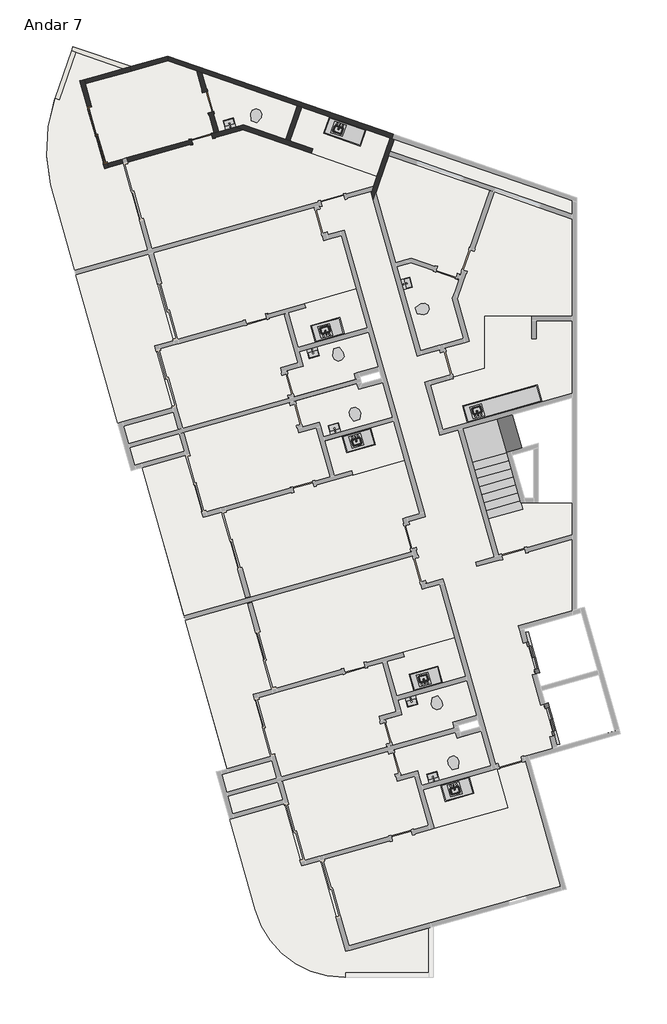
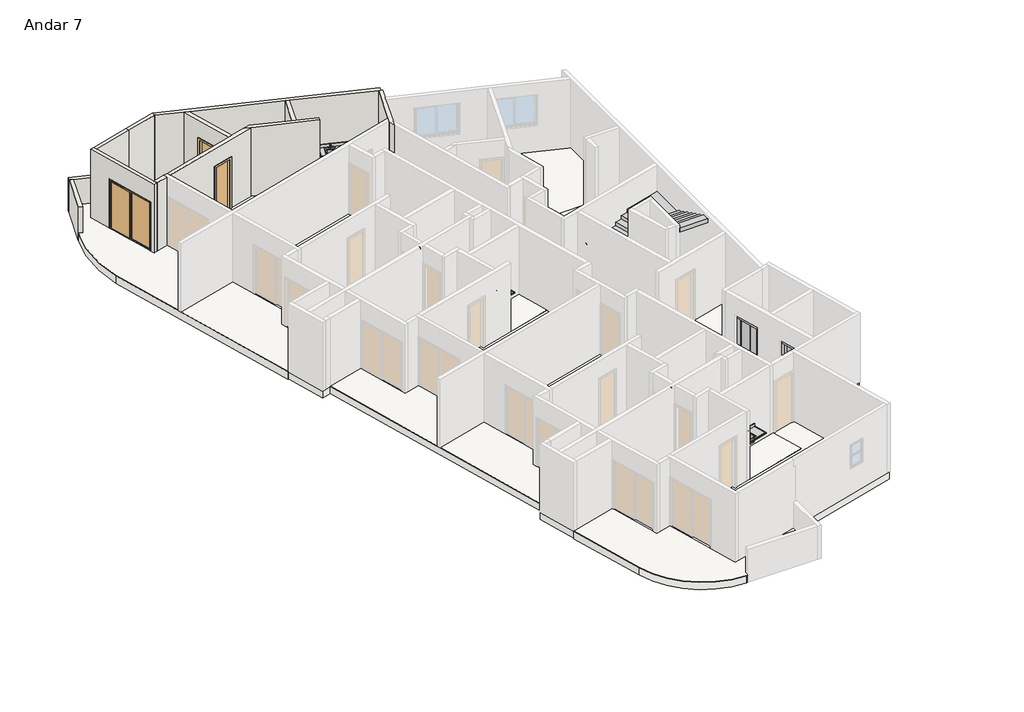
# One storey, part 3 of 3: 18 flow terminals, 18 slabs, 12 walls, 8 proxies, 3 doors, 1 stair flight.
"""IFC4 building model written with IfcOpenShell, lengths in millimetres."""

from ifc_helpers import new_model, si_unit, point, frame, frame_2d, origin, place, context, project, spatial, polyline, circle_curve, trimmed, segment, composite_curve, outline, extrude, faceted_brep, transform, mapped, element, save
from components import specialty_equipment_6c35da8b, specialty_equipment_77dfa124, rf_bancada_cozinha_rf_bancada_cozinha_340fef9f, rf_bancada_cozinha_rf_bancada_cozinha_cfb88ba1, rf_bancada_cozinha_rf_bancada_cozinha_2f873929, rf_bancada_cozinha_rf_bancada_cozinha_798ceddf, p3_70cm_ef4d15e3, p3_70cm_0a698c7c, p4_correr_200cm_eaaa0877, flow_terminal_cab7bae2, flow_terminal_3fb7dc42, flow_terminal_e42b9071, flow_terminal_c6e042c4, ap_01_creme_cr37_13e02e03, ap_01_creme_cr37_5ce6e54d

model = new_model("IFC4")

# Units and contexts
model_context = context("Model", 3, world=origin())
ifc_project = project(units=[si_unit("LENGTHUNIT", "METRE", prefix="MILLI")], contexts=[model_context])

# Site, building, storey
site = spatial("IfcSite", under=ifc_project)
building = spatial("IfcBuilding", under=site)
storey = spatial("IfcBuildingStorey", under=building, Name="Andar 7", Elevation=71050.0)

# Proxies
placement = place(None, origin())
specialty_equipment_shape = specialty_equipment_6c35da8b(model_context)
element("IfcBuildingElementProxy", 1, Name="Porta do elevador : Porta do elevador", ObjectType="Porta do elevador : Porta do elevador", at=placement, inside=storey, context=model_context, shape_type="MappedRepresentation", body=[
    mapped(specialty_equipment_shape, transform((-76594.4337486, 15747.4543727, 71050.0), x_axis=(0.27176796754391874, -0.9623628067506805, 0.0), y_axis=(0.9623628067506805, 0.27176796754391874, 0.0), z_axis=(0.0, 0.0, 1.0))),
])
specialty_equipment_2_shape = specialty_equipment_77dfa124(model_context)
element("IfcBuildingElementProxy", 2, Name="Porta do elevador : Porta do elevador", ObjectType="Porta do elevador : Porta do elevador", at=placement, inside=storey, context=model_context, shape_type="MappedRepresentation", body=[
    mapped(specialty_equipment_2_shape, transform((-75942.1906265, 13437.7836365, 71050.0), x_axis=(-0.27176796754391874, 0.9623628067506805, 0.0), y_axis=(-0.9623628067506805, -0.27176796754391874, 0.0), z_axis=(0.0, 0.0, 1.0))),
])
rf_bancada_cozinha_rf_bancada_cozinha_shape = rf_bancada_cozinha_rf_bancada_cozinha_340fef9f(model_context)
element("IfcBuildingElementProxy", 3, Name="RF_Bancada Cozinha : RF_Bancada Cozinha", ObjectType="RF_Bancada Cozinha : RF_Bancada Cozinha", at=placement, inside=storey, context=model_context, shape_type="MappedRepresentation", body=[
    mapped(rf_bancada_cozinha_rf_bancada_cozinha_shape, transform((-82760.548019, 26451.5820971, 71800.0), x_axis=(-0.9623628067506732, -0.27176796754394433, 0.0), y_axis=(0.27176796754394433, -0.9623628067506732, 0.0), z_axis=(0.0, 0.0, 1.0))),
])
element("IfcBuildingElementProxy", 4, Name="RF_Bancada Cozinha : RF_Bancada Cozinha", ObjectType="RF_Bancada Cozinha : RF_Bancada Cozinha", at=placement, inside=storey, context=model_context, shape_type="MappedRepresentation", body=[
    mapped(rf_bancada_cozinha_rf_bancada_cozinha_shape, transform((-79472.1556117, 14806.9921354, 71800.0), x_axis=(-0.962362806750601, -0.2717679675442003, 0.0), y_axis=(0.2717679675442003, -0.962362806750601, 0.0), z_axis=(0.0, 0.0, 1.0))),
])
rf_bancada_cozinha_rf_bancada_cozinha_2_shape = rf_bancada_cozinha_rf_bancada_cozinha_cfb88ba1(model_context)
element("IfcBuildingElementProxy", 5, Name="RF_Bancada Cozinha : RF_Bancada Cozinha", ObjectType="RF_Bancada Cozinha : RF_Bancada Cozinha", at=placement, inside=storey, context=model_context, shape_type="MappedRepresentation", body=[
    mapped(rf_bancada_cozinha_rf_bancada_cozinha_2_shape, transform((-81877.3021245, 23323.9029751, 71800.0), x_axis=(-0.9623628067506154, -0.27176796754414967, 0.0), y_axis=(0.27176796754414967, -0.9623628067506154, 0.0), z_axis=(0.0, 0.0, 1.0))),
])
element("IfcBuildingElementProxy", 6, Name="RF_Bancada Cozinha : RF_Bancada Cozinha", ObjectType="RF_Bancada Cozinha : RF_Bancada Cozinha", at=placement, inside=storey, context=model_context, shape_type="MappedRepresentation", body=[
    mapped(rf_bancada_cozinha_rf_bancada_cozinha_2_shape, transform((-78588.9097172, 11679.3130134, 71800.0), x_axis=(-0.9623628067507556, -0.27176796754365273, 0.0), y_axis=(0.27176796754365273, -0.9623628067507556, 0.0), z_axis=(0.0, 0.0, 1.0))),
])
rf_bancada_cozinha_rf_bancada_cozinha_3_shape = rf_bancada_cozinha_rf_bancada_cozinha_2f873929(model_context)
element("IfcBuildingElementProxy", 7, Name="RF_Bancada Cozinha : RF_Bancada Cozinha", ObjectType="RF_Bancada Cozinha : RF_Bancada Cozinha", at=placement, inside=storey, context=model_context, shape_type="MappedRepresentation", body=[
    mapped(rf_bancada_cozinha_rf_bancada_cozinha_3_shape, transform((-82030.0326121, 33293.9830661, 71800.0), x_axis=(-0.9449109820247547, 0.32732741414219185, 0.0), y_axis=(-0.32732741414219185, -0.9449109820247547, 0.0), z_axis=(0.0, 0.0, 1.0))),
])
rf_bancada_cozinha_rf_bancada_cozinha_4_shape = rf_bancada_cozinha_rf_bancada_cozinha_798ceddf(model_context)
element("IfcBuildingElementProxy", 8, Name="RF_Bancada Cozinha : RF_Bancada Cozinha", ObjectType="RF_Bancada Cozinha : RF_Bancada Cozinha", at=placement, inside=storey, context=model_context, shape_type="MappedRepresentation", body=[
    mapped(rf_bancada_cozinha_rf_bancada_cozinha_4_shape, transform((-76157.6622331, 24197.9763092, 71800.0), x_axis=(-0.9623628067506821, -0.27176796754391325, 0.0), y_axis=(0.27176796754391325, -0.9623628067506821, 0.0), z_axis=(0.0, 0.0, 1.0))),
])

# Doors
p3_70cm_shape = p3_70cm_ef4d15e3(model_context)
element("IfcDoor", 9, ObjectType="M_Folha única1 : P3 - 70CM", at=placement, inside=storey, context=model_context, shape_type="MappedRepresentation", body=[
    mapped(p3_70cm_shape, transform((-87513.806232, 32980.5300491, 71050.0), x_axis=(0.9623628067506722, 0.2717679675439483, 0.0), y_axis=(-0.2717679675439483, 0.9623628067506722, 0.0), z_axis=(0.0, 0.0, 1.0))),
])
p3_70cm_2_shape = p3_70cm_0a698c7c(model_context)
element("IfcDoor", 10, ObjectType="M_Folha única1 : P3 - 70CM", at=placement, inside=storey, context=model_context, shape_type="MappedRepresentation", body=[
    mapped(p3_70cm_2_shape, transform((-87314.304722, 34205.8663896, 71050.0), x_axis=(-0.2717679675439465, 0.9623628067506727, 0.0), y_axis=(-0.9623628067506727, -0.2717679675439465, 0.0), z_axis=(0.0, 0.0, 1.0))),
])
p4_correr_200cm_shape = p4_correr_200cm_eaaa0877(model_context)
element("IfcDoor", 11, ObjectType="Porta de correr dupla envidraçada sem revestimento : P4 - CORRER - 200CM", at=placement, inside=storey, context=model_context, shape_type="MappedRepresentation", body=[
    mapped(p4_correr_200cm_shape, transform((-91005.8131296, 33111.4415743, 71050.0), x_axis=(0.2717679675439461, -0.9623628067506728, 0.0), y_axis=(0.9623628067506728, 0.2717679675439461, 0.0), z_axis=(0.0, 0.0, 1.0))),
])

# Flow terminals
flow_terminal_shape = flow_terminal_cab7bae2(model_context)
element("IfcFlowTerminal", 12, ObjectType="RF_Pias : Pia da Bancada", at=placement, inside=storey, context=model_context, shape_type="MappedRepresentation", body=[
    mapped(flow_terminal_shape, transform((-83380.5102831, 26570.4992214, 70902.9), x_axis=(-0.9623628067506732, -0.27176796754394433, 0.0), y_axis=(0.27176796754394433, -0.9623628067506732, 0.0), z_axis=(0.0, 0.0, 1.0))),
])
element("IfcFlowTerminal", 13, ObjectType="RF_Pias : Pia da Bancada", at=placement, inside=storey, context=model_context, shape_type="MappedRepresentation", body=[
    mapped(flow_terminal_shape, transform((-80092.1178758, 14925.9092597, 70902.9), x_axis=(-0.962362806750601, -0.2717679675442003, 0.0), y_axis=(0.2717679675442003, -0.962362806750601, 0.0), z_axis=(0.0, 0.0, 1.0))),
])
element("IfcFlowTerminal", 14, ObjectType="RF_Pias : Pia da Bancada", at=placement, inside=storey, context=model_context, shape_type="MappedRepresentation", body=[
    mapped(flow_terminal_shape, transform((-78306.8185143, 23885.0542694, 70902.9), x_axis=(-0.9623628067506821, -0.27176796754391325, 0.0), y_axis=(0.27176796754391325, -0.9623628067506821, 0.0), z_axis=(0.0, 0.0, 1.0))),
])
flow_terminal_2_shape = flow_terminal_3fb7dc42(model_context)
element("IfcFlowTerminal", 15, ObjectType="Deca_Cuba de Apoio Retangular_L7300 : L.7300.17_Branco Gelo GE17", at=placement, inside=storey, context=model_context, shape_type="MappedRepresentation", body=[
    mapped(flow_terminal_2_shape, transform((-83090.0822283, 23308.7374016, 71800.0), x_axis=(-0.9623628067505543, -0.2717679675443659, 0.0), y_axis=(0.2717679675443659, -0.9623628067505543, 0.0), z_axis=(0.0, 0.0, 1.0))),
])
element("IfcFlowTerminal", 16, ObjectType="Deca_Cuba de Apoio Retangular_L7300 : L.7300.17_Branco Gelo GE17", at=placement, inside=storey, context=model_context, shape_type="MappedRepresentation", body=[
    mapped(flow_terminal_2_shape, transform((-79801.689821, 11664.1474399, 71800.0), x_axis=(-0.9623628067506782, -0.2717679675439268, 0.0), y_axis=(0.2717679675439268, -0.9623628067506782, 0.0), z_axis=(0.0, 0.0, 1.0))),
])
element("IfcFlowTerminal", 17, ObjectType="Deca_Cuba de Apoio Retangular_L7300 : L.7300.17_Branco Gelo GE17", at=placement, inside=storey, context=model_context, shape_type="MappedRepresentation", body=[
    mapped(flow_terminal_2_shape, transform((-80677.0991462, 28154.8020678, 71800.0), x_axis=(-0.2717679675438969, 0.9623628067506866, 0.0), y_axis=(-0.9623628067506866, -0.2717679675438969, 0.0), z_axis=(0.0, 0.0, 1.0))),
])
element("IfcFlowTerminal", 18, ObjectType="Deca_Cuba de Apoio Retangular_L7300 : L.7300.17_Branco Gelo GE17", at=placement, inside=storey, context=model_context, shape_type="MappedRepresentation", body=[
    mapped(flow_terminal_2_shape, transform((-86597.4204814, 33488.7004496, 71800.0), x_axis=(-0.9623628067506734, -0.27176796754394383, 0.0), y_axis=(0.27176796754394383, -0.9623628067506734, 0.0), z_axis=(0.0, 0.0, 1.0))),
])
flow_terminal_3_shape = flow_terminal_e42b9071(model_context)
element("IfcFlowTerminal", 19, ObjectType="Deca_Cuba de Apoio Retangular_L7300 : L.7300.17_Branco Gelo GE17", at=placement, inside=storey, context=model_context, shape_type="MappedRepresentation", body=[
    mapped(flow_terminal_3_shape, transform((-83802.1143033, 25830.1279553, 71800.0), x_axis=(-0.9623628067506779, -0.2717679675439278, 0.0), y_axis=(0.2717679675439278, -0.9623628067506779, 0.0), z_axis=(0.0, 0.0, 1.0))),
])
element("IfcFlowTerminal", 20, ObjectType="Deca_Cuba de Apoio Retangular_L7300 : L.7300.17_Branco Gelo GE17", at=placement, inside=storey, context=model_context, shape_type="MappedRepresentation", body=[
    mapped(flow_terminal_3_shape, transform((-80513.721896, 14185.5379936, 71800.0), x_axis=(-0.962362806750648, -0.27176796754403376, 0.0), y_axis=(0.27176796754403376, -0.962362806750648, 0.0), z_axis=(0.0, 0.0, 1.0))),
])
flow_terminal_4_shape = flow_terminal_c6e042c4(model_context)
element("IfcFlowTerminal", 21, ObjectType="RF_Pias : Pia da Bancada", at=placement, inside=storey, context=model_context, shape_type="MappedRepresentation", body=[
    mapped(flow_terminal_4_shape, transform((-82343.483233, 22898.2626745, 70902.9), x_axis=(-0.9623628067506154, -0.27176796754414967, 0.0), y_axis=(0.27176796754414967, -0.9623628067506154, 0.0), z_axis=(0.0, 0.0, 1.0))),
])
element("IfcFlowTerminal", 22, ObjectType="RF_Pias : Pia da Bancada", at=placement, inside=storey, context=model_context, shape_type="MappedRepresentation", body=[
    mapped(flow_terminal_4_shape, transform((-79055.0908257, 11253.6727129, 70902.9), x_axis=(-0.9623628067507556, -0.27176796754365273, 0.0), y_axis=(0.27176796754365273, -0.9623628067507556, 0.0), z_axis=(0.0, 0.0, 1.0))),
])
element("IfcFlowTerminal", 23, ObjectType="RF_Pias : Pia da Bancada", at=placement, inside=storey, context=model_context, shape_type="MappedRepresentation", body=[
    mapped(flow_terminal_4_shape, transform((-82939.3392028, 33309.5545572, 70902.9), x_axis=(-0.9449109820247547, 0.32732741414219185, 0.0), y_axis=(-0.32732741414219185, -0.9449109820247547, 0.0), z_axis=(0.0, 0.0, 1.0))),
])
ap_01_creme_cr37_shape = ap_01_creme_cr37_13e02e03(model_context)
element("IfcFlowTerminal", 24, ObjectType="Deca_Shared_Assento_P.900 : AP.01_Creme CR37", at=placement, inside=storey, context=model_context, shape_type="MappedRepresentation", body=[
    mapped(ap_01_creme_cr37_shape, transform((-83017.5301151, 25983.4740486, 71437.8723674), x_axis=(0.9623628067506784, 0.2717679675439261, 0.0), y_axis=(0.0, 0.0, 1.0), z_axis=(0.2717679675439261, -0.9623628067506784, 0.0))),
])
element("IfcFlowTerminal", 25, ObjectType="Deca_Shared_Assento_P.900 : AP.01_Creme CR37", at=placement, inside=storey, context=model_context, shape_type="MappedRepresentation", body=[
    mapped(ap_01_creme_cr37_shape, transform((-79729.1377078, 14338.8840869, 71437.8723674), x_axis=(0.962362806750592, 0.2717679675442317, 0.0), y_axis=(0.0, 0.0, 1.0), z_axis=(0.2717679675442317, -0.962362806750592, 0.0))),
])
element("IfcFlowTerminal", 26, ObjectType="Deca_Shared_Assento_P.900 : AP.01_Creme CR37", at=placement, inside=storey, context=model_context, shape_type="MappedRepresentation", body=[
    mapped(ap_01_creme_cr37_shape, transform((-80349.5164684, 27236.3600819, 71437.8723674), x_axis=(-0.271767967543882, 0.9623628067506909, 0.0), y_axis=(0.0, 0.0, 1.0), z_axis=(0.9623628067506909, 0.271767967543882, 0.0))),
])
element("IfcFlowTerminal", 27, ObjectType="Deca_Shared_Assento_P.900 : AP.01_Creme CR37", at=placement, inside=storey, context=model_context, shape_type="MappedRepresentation", body=[
    mapped(ap_01_creme_cr37_shape, transform((-85777.8760768, 33566.4131555, 71437.8723674), x_axis=(-0.9449109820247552, 0.3273274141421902, 0.0), y_axis=(0.0, 0.0, 1.0000000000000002), z_axis=(0.3273274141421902, 0.9449109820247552, 0.0))),
])
ap_01_creme_cr37_2_shape = ap_01_creme_cr37_5ce6e54d(model_context)
element("IfcFlowTerminal", 28, ObjectType="Deca_Shared_Assento_P.900 : AP.01_Creme CR37", at=placement, inside=storey, context=model_context, shape_type="MappedRepresentation", body=[
    mapped(ap_01_creme_cr37_2_shape, transform((-82341.1813229, 23588.4422577, 71437.8723674), x_axis=(0.9623628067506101, 0.27176796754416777, 0.0), y_axis=(0.0, 0.0, -1.0), z_axis=(-0.27176796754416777, 0.9623628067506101, 0.0))),
])
element("IfcFlowTerminal", 29, ObjectType="Deca_Shared_Assento_P.900 : AP.01_Creme CR37", at=placement, inside=storey, context=model_context, shape_type="MappedRepresentation", body=[
    mapped(ap_01_creme_cr37_2_shape, transform((-79052.7889156, 11943.852296, 71437.8723674), x_axis=(0.9623628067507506, 0.2717679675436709, 0.0), y_axis=(0.0, 0.0, -1.0000000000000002), z_axis=(-0.2717679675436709, 0.9623628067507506, 0.0))),
])

# Slabs
element("IfcSlab", 30, ObjectType="TZ_Piso de Áreas Molhadas", at=placement, inside=storey, context=model_context, shape_type="SweptSolid", body=[
    extrude(outline(composite_curve([segment(polyline([(-90765.4571774, 31984.341749), (-90143.7425806, 32159.9118263), (-89328.438678, 29272.823406), (-91766.0080564, 28584.4621444), (-92573.2320087, 31442.9384962)]), True, "CONTINUOUS"), segment(trimmed(circle_curve(frame_2d((-87414.5556743, 32622.5665107)), 5291.829908), [point((-92573.2320087, 31442.9384962))], [point((-92422.0860726, 34333.7366032))], False, "CARTESIAN"), True, "CONTINUOUS"), segment(polyline([(-92422.0860726, 34333.7366032), (-92280.2794148, 34284.6132387), (-91729.7010481, 35873.9929322), (-90151.0501028, 35327.1311202), (-91594.3494784, 34919.5483093), (-90765.4571774, 31984.341749)]), True, "CONTINUOUS")], self_intersect=False)), frame((0.0, 0.0, 71050.0), z_axis=(0.0, 0.0, 1.0), x_axis=(1.0, 0.0, 0.0)), (0.0, 0.0, 1.0), 20.0),
])
element("IfcSlab", 31, ObjectType="TZ_Piso de Áreas Molhadas", at=placement, inside=storey, context=model_context, shape_type="SweptSolid", body=[
    extrude(outline(polyline([(-88472.3695802, 26241.3805647), (-89094.084177, 26065.8104874), (-88509.7830468, 23996.7304529), (-90325.6378284, 23483.9392686), (-91725.2428613, 28440.1077234), (-89287.6734828, 29128.468985), (-88472.3695802, 26241.3805647)])), frame((0.0, 0.0, 71050.0), z_axis=(0.0, 0.0, 1.0), x_axis=(1.0, 0.0, 0.0)), (0.0, 0.0, 1.0), 20.0),
])
element("IfcSlab", 32, ObjectType="TZ_Piso de Áreas Molhadas", at=placement, inside=storey, context=model_context, shape_type="SweptSolid", body=[
    extrude(outline(polyline([(-86855.3501733, 20515.3218645), (-86040.0462707, 17628.2334443), (-88109.1263052, 17043.9323141), (-89508.731338, 22000.1007688), (-88061.3659003, 22408.8318218), (-87477.0647701, 20339.7517872), (-86855.3501733, 20515.3218645)])), frame((0.0, 0.0, 71050.0), z_axis=(0.0, 0.0, 1.0), x_axis=(1.0, 0.0, 0.0)), (0.0, 0.0, 1.0), 20.0),
])
element("IfcSlab", 33, ObjectType="TZ_Piso de Áreas Molhadas", at=placement, inside=storey, context=model_context, shape_type="SweptSolid", body=[
    extrude(outline(polyline([(-78926.5637691, 28284.9851582), (-79146.9727346, 27648.7205404), (-78771.1333302, 26317.8283554), (-80214.6775403, 25910.176404), (-81004.3851492, 28706.6252933), (-80530.2499593, 28840.5194505), (-78926.5637691, 28284.9851582)])), frame((0.0, 0.0, 71050.0), z_axis=(0.0, 0.0, 1.0), x_axis=(1.0, 0.0, 0.0)), (0.0, 0.0, 1.0), 20.0),
])
element("IfcSlab", 34, ObjectType="TZ_Piso de Áreas Molhadas", at=placement, inside=storey, context=model_context, shape_type="SweptSolid", body=[
    extrude(outline(polyline([(-78070.9150345, 27060.8243598), (-76493.6479314, 27060.8243598), (-76493.6479314, 26310.8243598), (-76343.6479314, 26310.8243598), (-76343.6479314, 26910.8243598), (-75147.8282189, 26910.8243598), (-75147.8282189, 24483.4871675), (-79467.3156296, 23263.6786855), (-79888.5559793, 24755.3410359), (-79127.7601479, 24970.1871785), (-79141.3485461, 25018.3053183), (-78070.9150345, 25320.5920836), (-78070.9150345, 27060.8243598)])), frame((0.0, 0.0, 71050.0), z_axis=(0.0, 0.0, 1.0), x_axis=(1.0, 0.0, 0.0)), (0.0, 0.0, 1.0), 20.0),
])
element("IfcSlab", 35, ObjectType="TZ_Piso de Áreas Molhadas", at=placement, inside=storey, context=model_context, shape_type="SweptSolid", body=[
    extrude(outline(polyline([(-84719.4810559, 32955.6762822), (-86137.8721095, 33447.0223292), (-86956.7711455, 33215.7680402), (-87515.4733556, 35194.1992432), (-84326.6881589, 34089.5694606), (-84719.4810559, 32955.6762822)])), frame((0.0, 0.0, 71050.0), z_axis=(0.0, 0.0, 1.0), x_axis=(1.0, 0.0, 0.0)), (0.0, 0.0, 1.0), 20.0),
])
element("IfcSlab", 36, ObjectType="TZ_Piso de Áreas Molhadas", at=placement, inside=storey, context=model_context, shape_type="SweptSolid", body=[
    extrude(outline(polyline([(-84577.7444086, 32906.57717), (-84184.9515116, 34040.4703485), (-81226.8582774, 33015.7547641), (-81668.7502865, 31740.1249383), (-83870.9147351, 32502.9785914), (-83821.815623, 32644.7152387), (-84577.7444086, 32906.57717)])), frame((0.0, 0.0, 71050.0), z_axis=(0.0, 0.0, 1.0), x_axis=(1.0, 0.0, 0.0)), (0.0, 0.0, 1.0), 20.0),
])
element("IfcSlab", 37, ObjectType="TZ_Piso de Áreas Molhadas", at=placement, inside=storey, context=model_context, shape_type="SweptSolid", body=[
    extrude(outline(polyline([(-81949.8925784, 26524.6420501), (-81623.7710174, 25369.806682), (-82432.1557751, 25141.5215893), (-82377.8021816, 24949.0490279), (-84456.5058441, 24362.030218), (-84701.0970149, 25228.1567441), (-84123.6793309, 25391.2175246), (-84259.5633146, 25872.398928), (-81949.8925784, 26524.6420501)])), frame((0.0, 0.0, 71050.0), z_axis=(0.0, 0.0, 1.0), x_axis=(1.0, 0.0, 0.0)), (0.0, 0.0, 1.0), 20.0),
])
element("IfcSlab", 38, ObjectType="TZ_Piso de Áreas Molhadas", at=placement, inside=storey, context=model_context, shape_type="SweptSolid", body=[
    extrude(outline(polyline([(-84089.7975819, 27479.0039186), (-82357.5445298, 27968.1862602), (-81990.6577736, 26668.9964711), (-84300.3285098, 26016.753349), (-84626.4500708, 27171.5887171), (-84049.0323868, 27334.6494976), (-84089.7975819, 27479.0039186)])), frame((0.0, 0.0, 71050.0), z_axis=(0.0, 0.0, 1.0), x_axis=(1.0, 0.0, 0.0)), (0.0, 0.0, 1.0), 20.0),
])
element("IfcSlab", 39, ObjectType="TZ_Piso de Áreas Molhadas", at=placement, inside=storey, context=model_context, shape_type="SweptSolid", body=[
    extrude(outline(polyline([(-84171.1494782, 23351.5492709), (-84415.740649, 24217.675797), (-82337.0369864, 24804.6946069), (-82282.6833929, 24612.2220455), (-81474.2986352, 24840.5071383), (-81148.1770742, 23685.6717702), (-83457.8478104, 23033.4286481), (-83593.7317942, 23514.6100514), (-84171.1494782, 23351.5492709)])), frame((0.0, 0.0, 71050.0), z_axis=(0.0, 0.0, 1.0), x_axis=(1.0, 0.0, 0.0)), (0.0, 0.0, 1.0), 20.0),
])
element("IfcSlab", 40, ObjectType="TZ_Piso de Áreas Molhadas", at=placement, inside=storey, context=model_context, shape_type="SweptSolid", body=[
    extrude(outline(composite_curve([segment(polyline([(-79945.4990038, 5119.4122055), (-82713.5540687, 5119.4122055), (-82713.5540687, 4969.4122055), (-82751.3896972, 4969.4122055)]), True, "CONTINUOUS"), segment(trimmed(circle_curve(frame_2d((-82751.3896972, 8069.4122055)), 3100.0), [point((-82751.3896972, 4969.4122055))], [point((-85734.7143981, 7226.9315061))], False, "CARTESIAN"), True, "CONTINUOUS"), segment(polyline([(-85734.7143981, 7226.9315061), (-86588.8282733, 10251.4506708), (-84772.9735093, 10764.2419177), (-84188.6722855, 8695.1618243), (-83566.957766, 8870.7319029), (-82710.8885369, 5839.2889958), (-79945.4990038, 6620.2256515), (-79945.4990038, 5119.4122055)]), True, "CONTINUOUS")], self_intersect=False)), frame((0.0, 0.0, 71050.0), z_axis=(0.0, 0.0, 1.0), x_axis=(1.0, 0.0, 0.0)), (0.0, 0.0, 1.0), 20.0),
])
element("IfcSlab", 41, ObjectType="TZ_Piso de Áreas Molhadas", at=placement, inside=storey, context=model_context, shape_type="SweptSolid", body=[
    extrude(outline(polyline([(-78185.906228, 13195.9171766), (-77859.7846669, 12041.0818085), (-80169.4554031, 11388.8386864), (-80305.3393869, 11870.0200898), (-80882.7570709, 11706.9593092), (-81127.3482417, 12573.0858353), (-79048.6445791, 13160.1046452), (-78994.2909856, 12967.6320839), (-78185.906228, 13195.9171766)])), frame((0.0, 0.0, 71050.0), z_axis=(0.0, 0.0, 1.0), x_axis=(1.0, 0.0, 0.0)), (0.0, 0.0, 1.0), 20.0),
])
element("IfcSlab", 42, ObjectType="TZ_Piso de Áreas Molhadas", at=placement, inside=storey, context=model_context, shape_type="SweptSolid", body=[
    extrude(outline(polyline([(-77307.7782946, 10638.3027935), (-79761.8034518, 9945.2944763), (-80128.690208, 11244.4842654), (-77674.6650508, 11937.4925826), (-77307.7782946, 10638.3027935)])), frame((0.0, 0.0, 71050.0), z_axis=(0.0, 0.0, 1.0), x_axis=(1.0, 0.0, 0.0)), (0.0, 0.0, 1.0), 20.0),
])
element("IfcSlab", 43, ObjectType="TZ_Piso de Áreas Molhadas", at=placement, inside=storey, context=model_context, shape_type="SweptSolid", body=[
    extrude(outline(polyline([(-81107.9410005, 23543.1910314), (-80740.5251229, 22242.1275601), (-82472.778175, 21752.9452185), (-82513.5433702, 21897.2996395), (-83090.9610542, 21734.238859), (-83418.0192411, 22888.8089065), (-81107.9410005, 23543.1910314)])), frame((0.0, 0.0, 71050.0), z_axis=(0.0, 0.0, 1.0), x_axis=(1.0, 0.0, 0.0)), (0.0, 0.0, 1.0), 20.0),
])
element("IfcSlab", 44, ObjectType="TZ_Piso de Áreas Molhadas", at=placement, inside=storey, context=model_context, shape_type="SweptSolid", body=[
    extrude(outline(polyline([(-85183.9771729, 14596.790603), (-85805.6917697, 14421.2205257), (-85221.3906395, 12352.1404912), (-86668.7560772, 11943.4094383), (-88068.36111, 16899.5778931), (-85999.2810755, 17483.8790233), (-85183.9771729, 14596.790603)])), frame((0.0, 0.0, 71050.0), z_axis=(0.0, 0.0, 1.0), x_axis=(1.0, 0.0, 0.0)), (0.0, 0.0, 1.0), 20.0),
])
element("IfcSlab", 45, ObjectType="TZ_Piso de Áreas Molhadas", at=placement, inside=storey, context=model_context, shape_type="SweptSolid", body=[
    extrude(outline(polyline([(-81412.7046076, 13583.5667824), (-80835.2869236, 13746.6275629), (-80971.1709074, 14227.8089663), (-78661.5001712, 14880.0520884), (-78335.3786101, 13725.2167203), (-79143.7633678, 13496.9316276), (-79089.4097743, 13304.4590662), (-81168.1134368, 12717.4402563), (-81412.7046076, 13583.5667824)])), frame((0.0, 0.0, 71050.0), z_axis=(0.0, 0.0, 1.0), x_axis=(1.0, 0.0, 0.0)), (0.0, 0.0, 1.0), 20.0),
])
element("IfcSlab", 46, ObjectType="TZ_Piso de Áreas Molhadas", at=placement, inside=storey, context=model_context, shape_type="SweptSolid", body=[
    extrude(outline(polyline([(-78701.7362448, 15022.5328272), (-81012.8731576, 14371.8995868), (-81338.0576635, 15526.9987554), (-80760.6399795, 15690.059536), (-80801.4051746, 15834.413957), (-79069.1521225, 16323.5962985), (-78701.7362448, 15022.5328272)])), frame((0.0, 0.0, 71050.0), z_axis=(0.0, 0.0, 1.0), x_axis=(1.0, 0.0, 0.0)), (0.0, 0.0, 1.0), 20.0),
])
element("IfcSlab", 47, ObjectType="TZ_Laje 30cm", at=placement, inside=storey, context=model_context, shape_type="SweptSolid", body=[
    extrude(outline(composite_curve([segment(polyline([(-82713.5540687, 4969.4122055), (-82751.3896972, 4969.4122055)]), True, "CONTINUOUS"), segment(trimmed(circle_curve(frame_2d((-82751.3896972, 8069.4122055)), 3100.0), [point((-82751.3896972, 4969.4122055))], [point((-85734.7143981, 7226.9315061))], False, "CARTESIAN"), True, "CONTINUOUS"), segment(polyline([(-85734.7143981, 7226.9315061), (-86588.8282747, 10251.4506758), (-86574.3928326, 10255.5271953), (-87018.7334595, 11828.9903844), (-86664.6795577, 11928.9739962), (-89512.8078575, 22014.5362109), (-89866.8617594, 21914.5525991), (-90311.2023863, 23488.0157882), (-90325.6378284, 23483.9392686), (-92573.2320087, 31442.9384962)]), True, "CONTINUOUS"), segment(trimmed(circle_curve(frame_2d((-87414.5556743, 32622.5665107)), 5291.829908), [point((-92573.2320087, 31442.9384962))], [point((-92426.4466323, 34320.9224218))], False, "CARTESIAN"), True, "CONTINUOUS"), segment(polyline([(-92426.4466323, 34320.9224218), (-92422.0160621, 34333.7123509), (-92403.1178425, 34327.1658026), (-91809.986912, 36039.3839237), (-89899.2062586, 35377.468778), (-88658.6666899, 35727.7929124), (-75017.8282189, 31002.4584964), (-75017.8282189, 17238.3098681), (-74750.7083414, 17313.7436086), (-73565.8000029, 13117.8417711), (-76592.4310301, 12263.1315132), (-75369.6745845, 7933.2050117), (-79815.4990038, 6677.7193903), (-79815.4990038, 4989.4122055), (-82713.5540687, 4989.4122055), (-82713.5540687, 4969.4122055)]), True, "CONTINUOUS")], self_intersect=False), holes=[polyline([(-81583.0058223, 25225.452261), (-82247.0361589, 25037.9323634), (-82179.094167, 24797.3416617), (-81515.0638304, 24984.8615593), (-81583.0058223, 25225.452261)]), polyline([(-78294.613415, 13580.8622993), (-78958.6437516, 13393.3424017), (-78890.7017597, 13152.7517), (-78226.6714231, 13340.2715976), (-78294.613415, 13580.8622993)]), polyline([(-74840.4856705, 17153.3066079), (-76760.3994699, 16611.1295126), (-76221.8794944, 14704.1660107), (-75646.150803, 12665.442005), (-73726.2370035, 13207.6191002), (-74270.7319215, 15135.7405865), (-74840.4856705, 17153.3066079)]), polyline([(-77952.9130698, 20291.1915783), (-76801.2963825, 20616.4041949), (-76858.5413412, 20819.1154254), (-75147.8282189, 20819.1154254), (-75147.8282189, 24343.0530162), (-78807.9060206, 23309.4595541), (-77952.9130698, 20291.1915783)])]), frame((0.0, 0.0, 70750.0), z_axis=(0.0, 0.0, 1.0), x_axis=(1.0, 0.0, 0.0)), (0.0, 0.0, 1.0), 300.0),
])

# Stair flight
element("IfcStairFlight", 48, ObjectType="Profundidade de 150mm", at=placement, inside=storey, context=model_context, shape_type="Brep", body=[
    faceted_brep([(-78029.0944782, 20560.1246789, 71188.0952381), (-77952.7808761, 20290.7249124, 71188.0952381), (-76802.2714069, 20616.6328483, 71188.0952381), (-76878.3664628, 20886.0945229, 71188.0952381), (-78029.0944782, 20560.1246789, 71050.0), (-77952.7808761, 20290.7249124, 71050.0), (-76802.2714069, 20616.6328483, 71050.0), (-76878.3664628, 20886.0945229, 71050.0), (-78105.4080802, 20829.5244453, 71326.1904762), (-78029.0944782, 20560.1246789, 71326.1904762), (-76878.3664628, 20886.0945229, 71326.1904762), (-76954.4615188, 21155.5561975, 71326.1904762), (-78105.4080802, 20829.5244453, 71158.939228), (-78045.2065482, 20617.0029783, 71050.0), (-76894.4323913, 20942.985893, 71050.0), (-76954.4615188, 21155.5561975, 71158.939228), (-78181.7216823, 21098.9242117, 71464.2857143), (-78105.4080802, 20829.5244453, 71464.2857143), (-76954.4615188, 21155.5561975, 71464.2857143), (-77030.5565747, 21425.017872, 71464.2857143), (-78181.7216823, 21098.9242117, 71297.0344661), (-77030.5565747, 21425.017872, 71297.0344661), (-78258.0352843, 21368.3239781, 71602.3809524), (-78181.7216823, 21098.9242117, 71602.3809524), (-77030.5565747, 21425.017872, 71602.3809524), (-77106.6516307, 21694.4795466, 71602.3809524), (-78258.0352843, 21368.3239781, 71435.1297042), (-77106.6516307, 21694.4795466, 71435.1297042), (-78334.3488864, 21637.7237445, 71740.4761905), (-78258.0352843, 21368.3239781, 71740.4761905), (-77106.6516307, 21694.4795466, 71740.4761905), (-77182.7466866, 21963.9412211, 71740.4761905), (-78334.3488864, 21637.7237445, 71573.2249423), (-77182.7466866, 21963.9412211, 71573.2249423), (-78410.6624885, 21907.1235109, 71878.5714286), (-78334.3488864, 21637.7237445, 71878.5714286), (-77182.7466866, 21963.9412211, 71878.5714286), (-77258.8417426, 22233.4028957, 71878.5714286), (-78410.6624885, 21907.1235109, 71711.3201804), (-77258.8417426, 22233.4028957, 71711.3201804), (-78486.9760905, 22176.5232773, 72016.6666667), (-78410.6624885, 21907.1235109, 72016.6666667), (-77258.8417426, 22233.4028957, 72016.6666667), (-77334.9367985, 22502.8645702, 72016.6666667), (-78486.9760905, 22176.5232773, 71849.4154185), (-77334.9367985, 22502.8645702, 71849.4154185), (-77650.6473278, 23620.8332322, 72154.7619048), (-78803.8582924, 23295.1703972, 72154.7619048), (-78572.8230038, 22479.5772253, 72154.7619048), (-78486.9760905, 22176.5232773, 72154.7619048), (-77334.9367985, 22502.8645702, 72154.7619048), (-77337.6544782, 22512.4881983, 72154.7619048), (-77650.6473278, 23620.8332322, 72004.7619048), (-78803.8582924, 23295.1703972, 72004.7619048), (-78572.8230038, 22479.5772253, 72004.7619048), (-77420.5378643, 22805.9881601, 72004.7619048), (-77337.6544782, 22512.4881983, 72004.7619048), (-77650.6473278, 23620.8332322, 72292.8571429), (-77337.6544782, 22512.4881983, 72292.8571429), (-77303.5536842, 22522.118146, 72292.8571429), (-77083.6709973, 22584.2122653, 72292.8571429), (-77396.6638468, 23692.5572992, 72292.8571429), (-77616.5465338, 23630.4631799, 72292.8571429), (-77396.6638468, 23692.5572992, 72119.0904432), (-77616.5465338, 23630.4631799, 72004.7619048), (-77303.5536842, 22522.118146, 72004.7619048), (-77083.6709973, 22584.2122653, 72119.0904432), (-77127.202261, 23768.6523301, 72430.952381), (-77396.6638468, 23692.5572992, 72430.952381), (-77083.6709973, 22584.2122653, 72430.952381), (-76814.2094114, 22660.3072962, 72430.952381), (-77127.202261, 23768.6523301, 72259.1976509), (-76814.2094114, 22660.3072962, 72259.1976509), (-76857.7406751, 23844.747361, 72569.047619), (-77127.202261, 23768.6523301, 72569.047619), (-76814.2094114, 22660.3072962, 72569.047619), (-76544.7478255, 22736.4023271, 72569.047619), (-76857.7406751, 23844.747361, 72399.3048586), (-76544.7478255, 22736.4023271, 72399.3048586), (-76588.2790892, 23920.842392, 72707.1428571), (-76857.7406751, 23844.747361, 72707.1428571), (-76544.7478255, 22736.4023271, 72707.1428571), (-76275.2862396, 22812.497358, 72707.1428571), (-76588.2790892, 23920.842392, 72539.4120663), (-75975.593386, 22897.1295956, 72695.2380952), (-76275.2862396, 22812.497358, 72695.2380952), (-75147.8282189, 22779.1154254, 72845.2380952), (-75147.8282189, 24327.6207947, 72845.2380952), (-76288.5862355, 24005.4746296, 72845.2380952), (-76588.2790892, 23920.842392, 72845.2380952), (-76275.2862396, 22812.497358, 72845.2380952), (-76275.2862396, 22779.1154254, 72845.2380952), (-75147.8282189, 22779.1154254, 72695.2380952), (-75147.8282189, 24327.6207947, 72695.2380952), (-76288.5862355, 24005.4746296, 72695.2380952), (-76275.2862396, 22779.1154254, 72695.2380952), (-75147.8282189, 22779.1154254, 72983.3333333), (-76275.2862396, 22779.1154254, 72983.3333333), (-76275.2862396, 22744.1370326, 72983.3333333), (-76275.2862396, 22499.1154254, 72983.3333333), (-75147.8282189, 22499.1154254, 72983.3333333), (-75147.8282189, 22744.1370326, 72983.3333333), (-75147.8282189, 22499.1154254, 72816.0820852), (-75147.8282189, 22744.1370326, 72695.2380952), (-76275.2862396, 22744.1370326, 72695.2380952), (-76275.2862396, 22499.1154254, 72816.0820852), (-75147.8282189, 22219.1154254, 73121.4285714), (-75147.8282189, 22499.1154254, 73121.4285714), (-76275.2862396, 22499.1154254, 73121.4285714), (-76275.2862396, 22219.1154254, 73121.4285714), (-75147.8282189, 22219.1154254, 72954.1773233), (-76275.2862396, 22219.1154254, 72954.1773233), (-75147.8282189, 21939.1154254, 73259.5238095), (-75147.8282189, 22219.1154254, 73259.5238095), (-76275.2862396, 22219.1154254, 73259.5238095), (-76275.2862396, 21939.1154254, 73259.5238095), (-75147.8282189, 21939.1154254, 73092.2725614), (-76275.2862396, 21939.1154254, 73092.2725614), (-75147.8282189, 21659.1154254, 73397.6190476), (-75147.8282189, 21939.1154254, 73397.6190476), (-76275.2862396, 21939.1154254, 73397.6190476), (-76275.2862396, 21659.1154254, 73397.6190476), (-75147.8282189, 21659.1154254, 73230.3677995), (-76275.2862396, 21659.1154254, 73230.3677995), (-75147.8282189, 21379.1154254, 73535.7142857), (-75147.8282189, 21659.1154254, 73535.7142857), (-76275.2862396, 21659.1154254, 73535.7142857), (-76275.2862396, 21379.1154254, 73535.7142857), (-75147.8282189, 21379.1154254, 73368.4630376), (-76275.2862396, 21379.1154254, 73368.4630376), (-75147.8282189, 21099.1154254, 73673.8095238), (-75147.8282189, 21379.1154254, 73673.8095238), (-76275.2862396, 21379.1154254, 73673.8095238), (-76275.2862396, 21099.1154254, 73673.8095238), (-75147.8282189, 21099.1154254, 73506.5582757), (-76275.2862396, 21099.1154254, 73506.5582757), (-75147.8282189, 20819.1154254, 73811.9047619), (-75147.8282189, 21099.1154254, 73811.9047619), (-76275.2862396, 21099.1154254, 73811.9047619), (-76275.2862396, 20819.1154254, 73811.9047619), (-75147.8282189, 20819.1154254, 73644.6535138), (-76275.2862396, 20819.1154254, 73644.6535138), (-76275.2862396, 23958.3777566, 72695.2380952)], [[[0, 1, 2, 3]], [[1, 0, 4, 5]], [[2, 1, 5, 6]], [[3, 2, 6, 7]], [[8, 9, 10, 11]], [[4, 0, 9, 8, 12, 13]], [[0, 3, 10, 9]], [[3, 7, 14, 15, 11, 10]], [[16, 17, 18, 19]], [[17, 16, 20, 12, 8]], [[8, 11, 18, 17]], [[19, 18, 11, 15, 21]], [[22, 23, 24, 25]], [[23, 22, 26, 20, 16]], [[16, 19, 24, 23]], [[25, 24, 19, 21, 27]], [[28, 29, 30, 31]], [[29, 28, 32, 26, 22]], [[22, 25, 30, 29]], [[31, 30, 25, 27, 33]], [[34, 35, 36, 37]], [[35, 34, 38, 32, 28]], [[28, 31, 36, 35]], [[37, 36, 31, 33, 39]], [[40, 41, 42, 43]], [[41, 40, 44, 38, 34]], [[34, 37, 42, 41]], [[43, 42, 37, 39, 45]], [[46, 47, 48, 49, 50, 51]], [[47, 46, 52, 53]], [[40, 49, 48, 47, 53, 54, 44]], [[40, 43, 50, 49]], [[51, 50, 43, 45, 55, 56]], [[57, 58, 59, 60, 61, 62]], [[46, 57, 62, 61, 63, 64, 52]], [[46, 51, 58, 57]], [[58, 51, 56, 65, 66, 60, 59]], [[67, 68, 69, 70]], [[68, 67, 71, 63, 61]], [[61, 60, 69, 68]], [[70, 69, 60, 66, 72]], [[73, 74, 75, 76]], [[74, 73, 77, 71, 67]], [[67, 70, 75, 74]], [[76, 75, 70, 72, 78]], [[79, 80, 81, 82]], [[80, 79, 83, 77, 73]], [[73, 76, 81, 80]], [[82, 81, 76, 78, 84, 85]], [[86, 87, 88, 89, 90, 91]], [[87, 86, 92, 93]], [[79, 89, 88, 87, 93, 94, 83]], [[79, 82, 90, 89]], [[91, 90, 82, 85, 95]], [[96, 97, 98, 99, 100, 101]], [[86, 96, 101, 100, 102, 103, 92]], [[86, 91, 97, 96]], [[97, 91, 95, 104, 105, 99, 98]], [[106, 107, 108, 109]], [[107, 106, 110, 102, 100]], [[100, 99, 108, 107]], [[109, 108, 99, 105, 111]], [[112, 113, 114, 115]], [[113, 112, 116, 110, 106]], [[106, 109, 114, 113]], [[115, 114, 109, 111, 117]], [[118, 119, 120, 121]], [[119, 118, 122, 116, 112]], [[112, 115, 120, 119]], [[121, 120, 115, 117, 123]], [[124, 125, 126, 127]], [[125, 124, 128, 122, 118]], [[118, 121, 126, 125]], [[127, 126, 121, 123, 129]], [[130, 131, 132, 133]], [[131, 130, 134, 128, 124]], [[124, 127, 132, 131]], [[133, 132, 127, 129, 135]], [[136, 137, 138, 139]], [[137, 136, 140, 134, 130]], [[130, 133, 138, 137]], [[139, 138, 133, 135, 141]], [[136, 139, 141, 140]], [[5, 4, 13, 14, 7, 6]], [[54, 55, 45, 39, 33, 27, 21, 15, 14, 13, 12, 20, 26, 32, 38, 44]], [[55, 54, 53, 52, 64, 65, 56]], [[65, 64, 63, 71, 77, 83, 94, 142, 84, 78, 72, 66]], [[142, 94, 93, 92, 103, 104, 95, 85, 84]], [[104, 103, 102, 110, 116, 122, 128, 134, 140, 141, 135, 129, 123, 117, 111, 105]]]),
])

# Walls
element("IfcWall", 49, ObjectType="Básica .15 - Externa", at=placement, inside=storey, context=model_context, shape_type="Brep", body=[
    faceted_brep([(-88662.6343714, 35591.588263, 71050.0), (-87688.240739, 35254.0477389, 71050.0), (-87515.4733556, 35194.1992432, 71050.0), (-84326.6881589, 34089.5694606, 71050.0), (-84184.9515116, 34040.4703485, 71050.0), (-81226.8582774, 33015.7547641, 71050.0), (-81156.3583355, 32991.3328194, 71050.0), (-81156.3583355, 32991.3328194, 72350.0), (-81085.1216301, 32966.655652, 72350.0), (-81085.1216301, 32966.655652, 73650.0), (-81156.3583355, 32991.3328194, 73650.0), (-81156.3583355, 32991.3328194, 73950.0), (-81226.8582774, 33015.7547641, 73950.0), (-84184.9515116, 34040.4703485, 73950.0), (-84326.6881589, 34089.5694606, 73950.0), (-87515.4733556, 35194.1992432, 73950.0), (-87688.240739, 35254.0477389, 73950.0), (-88662.6343714, 35591.588263, 73950.0), (-88658.0562773, 35748.7474739, 71050.0), (-88658.0562773, 35748.7474739, 73950.0), (-81107.2592234, 33133.0694667, 73950.0), (-81107.2592234, 33133.0694667, 73650.0), (-81036.022518, 33108.3922993, 73650.0), (-81036.022518, 33108.3922993, 72350.0), (-81107.2592234, 33133.0694667, 72350.0), (-81107.2592234, 33133.0694667, 71050.0)], [[[0, 1, 2, 3, 4, 5, 6, 7, 8, 9, 10, 11, 12, 13, 14, 15, 16, 17]], [[18, 19, 20, 21, 22, 23, 24, 25]], [[6, 5, 4, 3, 2, 1, 0, 18, 25]], [[17, 16, 15, 14, 13, 12, 11, 20, 19]], [[0, 17, 19, 18]], [[7, 6, 25, 24]], [[23, 8, 7, 24]], [[11, 10, 21, 20]], [[21, 10, 9, 22]], [[9, 8, 23, 22]]]),
])
element("IfcWall", 50, ObjectType="Básica .15 -  Interna", at=placement, inside=storey, context=model_context, shape_type="Brep", body=[
    faceted_brep([(-81789.2550074, 30934.0017027, 71050.0), (-81703.3880158, 31181.8778654, 71050.0), (-81272.8781344, 32424.6503839, 71050.0), (-81223.7790223, 32566.3870312, 71050.0), (-81085.1216301, 32966.655652, 71050.0), (-81085.1216301, 32966.655652, 72350.0), (-81085.1216301, 32966.655652, 73650.0), (-81085.1216301, 32966.655652, 73950.0), (-81223.7790223, 32566.3870312, 73950.0), (-81272.8781344, 32424.6503839, 73950.0), (-81703.3880158, 31181.8778654, 73950.0), (-81789.2550074, 30934.0017027, 73950.0), (-81860.5472267, 31186.4559595, 71050.0), (-81860.5472267, 31186.4559595, 73950.0), (-81845.4155775, 31230.1371819, 73950.0), (-81785.5670817, 31402.9045654, 73950.0), (-81226.8582774, 33015.7547641, 73950.0), (-81226.8582774, 33015.7547641, 71050.0), (-81785.5670817, 31402.9045654, 71050.0), (-81845.4155775, 31230.1371819, 71050.0), (-81156.3583355, 32991.3328194, 71050.0), (-81156.3583355, 32991.3328194, 73950.0)], [[[0, 1, 2, 3, 4, 5, 6, 7, 8, 9, 10, 11]], [[12, 13, 14, 15, 16, 17, 18, 19]], [[4, 3, 2, 1, 0, 12, 19, 18, 17, 20]], [[11, 10, 9, 8, 7, 21, 16, 15, 14, 13]], [[0, 11, 13, 12]], [[4, 20, 17, 16, 21, 7, 6, 5]]]),
])
element("IfcWall", 51, ObjectType="Básica .15 -  Interna", at=placement, inside=storey, context=model_context, shape_type="Brep", body=[
    faceted_brep([(-91449.9950574, 34960.3135045, 73950.0), (-91409.2298622, 34815.9590835, 73950.0), (-90661.8679515, 32169.4613651, 73950.0), (-90621.1027564, 32025.1069441, 73950.0), (-90621.1027564, 32025.1069441, 71050.0), (-90661.8679515, 32169.4613651, 71050.0), (-90661.8679515, 32169.4613651, 73150.0), (-91205.4038866, 34094.1869786, 73150.0), (-91205.4038866, 34094.1869786, 71050.0), (-91409.2298622, 34815.9590835, 71050.0), (-91449.9950574, 34960.3135045, 71050.0), (-90765.4571774, 31984.341749, 73950.0), (-91594.3494784, 34919.5483093, 73950.0), (-91594.3494784, 34919.5483093, 71050.0), (-91349.7583076, 34053.4217835, 71050.0), (-91349.7583076, 34053.4217835, 73150.0), (-90806.2223725, 32128.69617, 73150.0), (-90806.2223725, 32128.69617, 71050.0), (-90765.4571774, 31984.341749, 71050.0)], [[[0, 1, 2, 3, 4, 5, 6, 7, 8, 9, 10]], [[11, 12, 13, 14, 15, 16, 17, 18]], [[4, 18, 17, 5]], [[13, 10, 9, 8, 14]], [[3, 2, 1, 0, 12, 11]], [[4, 3, 11, 18]], [[16, 6, 5, 17]], [[6, 16, 15, 7]], [[7, 15, 14, 8]], [[0, 10, 13, 12]]]),
])
element("IfcWall", 52, ObjectType="Básica .15 - Externa", at=placement, inside=storey, context=model_context, shape_type="Brep", body=[
    faceted_brep([(-91871.4376954, 35923.0920443, 70750.0), (-91729.7010481, 35873.9929322, 70750.0), (-90151.0501028, 35327.1311202, 70750.0), (-90151.0501028, 35327.1311202, 72150.0), (-91729.7010481, 35873.9929322, 72150.0), (-91871.4376954, 35923.0920443, 72150.0), (-91822.3385833, 36064.8286916, 70750.0), (-91822.3385833, 36064.8286916, 72150.0), (-89898.595846, 35398.4233395, 72150.0), (-89898.595846, 35398.4233395, 70750.0)], [[[0, 1, 2, 3, 4, 5]], [[6, 7, 8, 9]], [[2, 1, 0, 6, 9]], [[5, 4, 3, 8, 7]], [[0, 5, 7, 6]], [[3, 2, 9, 8]]]),
])
element("IfcWall", 53, ObjectType="Básica .15 - Externa", at=placement, inside=storey, context=model_context, shape_type="SweptSolid", body=[
    extrude(outline(polyline([(-91729.7010481, 35873.9929322), (-92280.2794148, 34284.6132387), (-92422.0160621, 34333.7123509), (-91871.4376954, 35923.0920443), (-91729.7010481, 35873.9929322)])), frame((0.0, 0.0, 70750.0), z_axis=(0.0, 0.0, 1.0), x_axis=(1.0, 0.0, 0.0)), (0.0, 0.0, 1.0), 1400.0),
])
element("IfcWall", 54, ObjectType="Básica .15 - Externa", at=placement, inside=storey, context=model_context, shape_type="SweptSolid", body=[
    extrude(outline(polyline([(-89921.2674906, 35392.0209445), (-88658.0562773, 35748.7474739), (-88662.6343714, 35591.588263), (-89880.5022955, 35247.6665235), (-89921.2674906, 35392.0209445)])), frame((0.0, 0.0, 71050.0), z_axis=(0.0, 0.0, 1.0), x_axis=(1.0, 0.0, 0.0)), (0.0, 0.0, 1.0), 2900.0),
])
element("IfcWall", 55, ObjectType="Básica .15 -  Interna", at=placement, inside=storey, context=model_context, shape_type="Brep", body=[
    faceted_brep([(-90184.5077758, 32304.2662473, 71050.0), (-90661.8679515, 32169.4613651, 71050.0), (-90661.8679515, 32169.4613651, 73150.0), (-90661.8679515, 32169.4613651, 73950.0), (-90184.5077758, 32304.2662473, 73950.0), (-90143.7425806, 32159.9118263, 71050.0), (-90143.7425806, 32159.9118263, 73150.0), (-90143.7425806, 32159.9118263, 73950.0), (-90621.1027564, 32025.1069441, 73950.0), (-90621.1027564, 32025.1069441, 71050.0)], [[[0, 1, 2, 3, 4]], [[5, 6, 7, 8, 9]], [[1, 0, 5, 9]], [[4, 3, 8, 7]], [[0, 4, 7, 6, 5]], [[3, 2, 1, 9, 8]]]),
])
element("IfcWall", 56, ObjectType="Básica .15 -  Interna", at=placement, inside=storey, context=model_context, shape_type="SweptSolid", body=[
    extrude(outline(polyline([(-91449.9950574, 34960.3135045), (-89921.2674906, 35392.0209445), (-89880.5022955, 35247.6665235), (-91409.2298622, 34815.9590835), (-91449.9950574, 34960.3135045)])), frame((0.0, 0.0, 71050.0), z_axis=(0.0, 0.0, 1.0), x_axis=(1.0, 0.0, 0.0)), (0.0, 0.0, 1.0), 2900.0),
])
element("IfcWall", 57, ObjectType="Básica .15 -  Interna", at=placement, inside=storey, context=model_context, shape_type="Brep", body=[
    faceted_brep([(-83821.815623, 32644.7152387, 71050.0), (-84577.7444086, 32906.57717, 71050.0), (-84719.4810559, 32955.6762822, 71050.0), (-86137.8721095, 33447.0223292, 71050.0), (-86137.8721095, 33447.0223292, 73950.0), (-84719.4810559, 32955.6762822, 73950.0), (-84577.7444086, 32906.57717, 73950.0), (-83821.815623, 32644.7152387, 73950.0), (-83870.9147351, 32502.9785914, 71050.0), (-83870.9147351, 32502.9785914, 73950.0), (-86142.4502035, 33289.8631183, 73950.0), (-86390.3263662, 33375.7301099, 73950.0), (-86390.3263662, 33375.7301099, 71050.0), (-86142.4502035, 33289.8631183, 71050.0)], [[[0, 1, 2, 3, 4, 5, 6, 7]], [[8, 9, 10, 11, 12, 13]], [[3, 2, 1, 0, 8, 13, 12]], [[7, 6, 5, 4, 11, 10, 9]], [[0, 7, 9, 8]], [[4, 3, 12, 11]]]),
])
element("IfcWall", 58, ObjectType="Básica .15 -  Interna", at=placement, inside=storey, context=model_context, shape_type="Brep", body=[
    faceted_brep([(-86390.3263662, 33375.7301099, 71050.0), (-86956.7711455, 33215.7680402, 71050.0), (-87101.1255666, 33175.002845, 71050.0), (-87197.3618472, 33147.8260483, 71050.0), (-87197.3618472, 33147.8260483, 73150.0), (-87871.015812, 32957.588471, 73150.0), (-87871.015812, 32957.588471, 71050.0), (-90040.1533547, 32345.0314424, 71050.0), (-90040.1533547, 32345.0314424, 73950.0), (-87101.1255666, 33175.002845, 73950.0), (-86956.7711455, 33215.7680402, 73950.0), (-86390.3263662, 33375.7301099, 73950.0), (-87156.5966521, 33003.4716273, 73150.0), (-87156.5966521, 33003.4716273, 71050.0), (-86142.4502035, 33289.8631183, 71050.0), (-86142.4502035, 33289.8631183, 73950.0), (-89999.3881596, 32200.6770214, 73950.0), (-89999.3881596, 32200.6770214, 73150.0), (-89999.3881596, 32200.6770214, 71050.0), (-87830.2506168, 32813.23405, 71050.0), (-87830.2506168, 32813.23405, 73150.0)], [[[0, 1, 2, 3, 4, 5, 6, 7, 8, 9, 10, 11]], [[12, 13, 14, 15, 16, 17, 18, 19, 20]], [[19, 18, 7, 6]], [[14, 13, 3, 2, 1, 0]], [[11, 10, 9, 8, 16, 15]], [[4, 3, 13, 12]], [[5, 4, 12, 20]], [[6, 5, 20, 19]], [[0, 11, 15, 14]], [[8, 7, 18, 17, 16]]]),
])
element("IfcWall", 59, ObjectType="Básica .15 -  Interna", at=placement, inside=storey, context=model_context, shape_type="SweptSolid", body=[
    extrude(outline(polyline([(-84184.9515116, 34040.4703485), (-84577.7444086, 32906.57717), (-84719.4810559, 32955.6762822), (-84326.6881589, 34089.5694606), (-84184.9515116, 34040.4703485)])), frame((0.0, 0.0, 71050.0), z_axis=(0.0, 0.0, 1.0), x_axis=(1.0, 0.0, 0.0)), (0.0, 0.0, 1.0), 2900.0),
])
element("IfcWall", 60, ObjectType="Básica .15 -  Interna", at=placement, inside=storey, context=model_context, shape_type="Brep", body=[
    faceted_brep([(-87337.2463001, 34563.0759696, 73150.0), (-87337.2463001, 34563.0759696, 71050.0), (-87515.4733556, 35194.1992432, 71050.0), (-87515.4733556, 35194.1992432, 73950.0), (-86956.7711455, 33215.7680402, 73950.0), (-86956.7711455, 33215.7680402, 71050.0), (-87147.0087228, 33889.4220048, 71050.0), (-87147.0087228, 33889.4220048, 73150.0), (-87688.240739, 35254.0477389, 71050.0), (-87481.6007211, 34522.3107744, 71050.0), (-87481.6007211, 34522.3107744, 73150.0), (-87291.3631438, 33848.6568097, 73150.0), (-87291.3631438, 33848.6568097, 71050.0), (-87101.1255666, 33175.002845, 71050.0), (-87101.1255666, 33175.002845, 73950.0), (-87688.240739, 35254.0477389, 73950.0)], [[[0, 1, 2, 3, 4, 5, 6, 7]], [[8, 9, 10, 11, 12, 13, 14, 15]], [[6, 5, 13, 12]], [[2, 1, 9, 8]], [[4, 3, 15, 14]], [[10, 9, 1, 0]], [[11, 10, 0, 7]], [[12, 11, 7, 6]], [[5, 4, 14, 13]], [[3, 2, 8, 15]]]),
])

save(model, "model.ifc")
